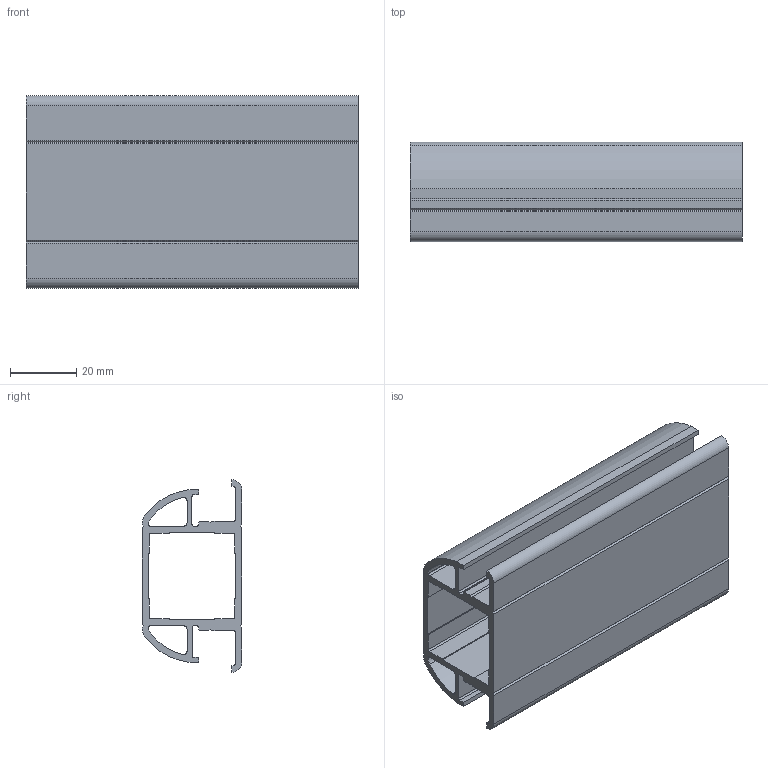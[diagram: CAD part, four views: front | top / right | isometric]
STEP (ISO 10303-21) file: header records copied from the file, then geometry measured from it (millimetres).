
FILE_DESCRIPTION (( 'STEP AP203' ), '1' );
FILE_NAME ('B30032A.STEP', '2017-03-22T11:29:33', ( 'Localadmin' ), ( 'Microsoft' ), 'SwSTEP 2.0', 'SolidWorks 2016', '' );
FILE_SCHEMA (( 'CONFIG_CONTROL_DESIGN' ));
Length unit declared in the file: millimetre
Products named in the file (1): B30032A
Bounding box: 100 x 30 x 58 mm (x, y, z)
Volume: 41462.6 mm3; surface area: 39980.9 mm2
Topology: 1 solids, 1 shells, 101 faces, 297 edges, 198 vertices
Faces by surface type: plane 68, cylinder 33
Entity records: 3446 total; most frequent: CARTESIAN_POINT 597, ORIENTED_EDGE 594, DIRECTION 567, EDGE_CURVE 297, VECTOR 231, LINE 231, VERTEX_POINT 198, AXIS2_PLACEMENT_3D 168
